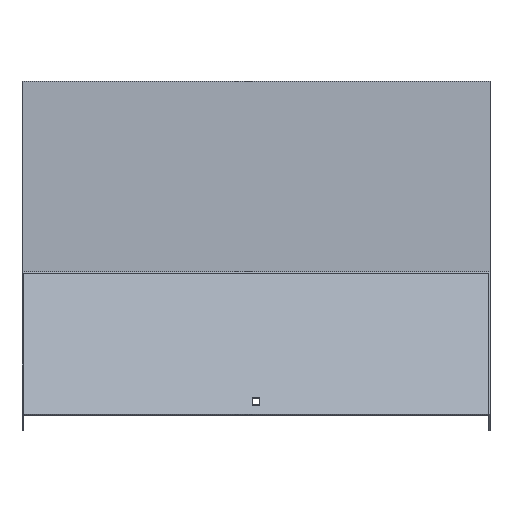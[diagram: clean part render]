
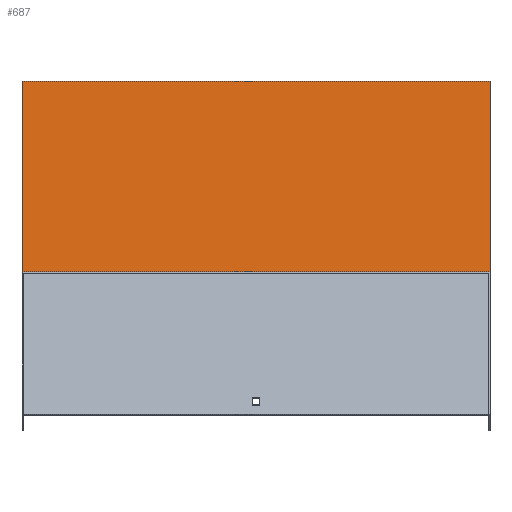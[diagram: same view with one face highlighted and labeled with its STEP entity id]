
A CAD part, top view. The second image highlights one B-rep face of the part: STEP entity #687.
In plain terms, the highlighted planar face has unit normal (0, 0.924, 0.383).
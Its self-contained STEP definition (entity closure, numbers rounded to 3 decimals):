
#10 = EDGE_CURVE ( 'NONE', #714, #693, #781, .T. ) ;
#69 = CARTESIAN_POINT ( 'NONE',  ( 201.5, -144.537, 571.206 ) ) ;
#74 = VECTOR ( 'NONE', #181, 1000. ) ;
#96 = CARTESIAN_POINT ( 'NONE',  ( -201.5, -144.537, 571.206 ) ) ;
#103 = EDGE_CURVE ( 'NONE', #693, #698, #315, .T. ) ;
#105 = CARTESIAN_POINT ( 'NONE',  ( 201.5, 20., 173.978 ) ) ;
#142 = DIRECTION ( 'NONE',  ( 0., -0.924, -0.383 ) ) ;
#157 = VECTOR ( 'NONE', #516, 1000. ) ;
#181 = DIRECTION ( 'NONE',  ( -1., 0., 0. ) ) ;
#243 = LINE ( 'NONE', #384, #157 ) ;
#251 = CARTESIAN_POINT ( 'NONE',  ( 201.5, 20., 173.978 ) ) ;
#262 = AXIS2_PLACEMENT_3D ( 'NONE', #477, #142, #414 ) ;
#315 = LINE ( 'NONE', #443, #628 ) ;
#364 = DIRECTION ( 'NONE',  ( -1., 0., 0. ) ) ;
#375 = ORIENTED_EDGE ( 'NONE', *, *, #421, .F. ) ;
#384 = CARTESIAN_POINT ( 'NONE',  ( 201.5, 18.478, 177.654 ) ) ;
#407 = ORIENTED_EDGE ( 'NONE', *, *, #103, .T. ) ;
#414 = DIRECTION ( 'NONE',  ( 0., 0.383, -0.924 ) ) ;
#421 = EDGE_CURVE ( 'NONE', #714, #422, #243, .T. ) ;
#422 = VERTEX_POINT ( 'NONE', #69 ) ;
#433 = CARTESIAN_POINT ( 'NONE',  ( 201.5, -144.537, 571.206 ) ) ;
#443 = CARTESIAN_POINT ( 'NONE',  ( -201.5, 18.478, 177.654 ) ) ;
#477 = CARTESIAN_POINT ( 'NONE',  ( 201.5, 18.478, 177.654 ) ) ;
#494 = VECTOR ( 'NONE', #364, 1000. ) ;
#516 = DIRECTION ( 'NONE',  ( 0., -0.383, 0.924 ) ) ;
#536 = FACE_OUTER_BOUND ( 'NONE', #644, .T. ) ;
#559 = CARTESIAN_POINT ( 'NONE',  ( -201.5, 20., 173.978 ) ) ;
#628 = VECTOR ( 'NONE', #832, 1000. ) ;
#641 = ORIENTED_EDGE ( 'NONE', *, *, #10, .T. ) ;
#644 = EDGE_LOOP ( 'NONE', ( #407, #777, #375, #641 ) ) ;
#687 = ADVANCED_FACE ( 'NONE', ( #536 ), #800, .F. ) ;
#693 = VERTEX_POINT ( 'NONE', #559 ) ;
#698 = VERTEX_POINT ( 'NONE', #96 ) ;
#701 = EDGE_CURVE ( 'NONE', #422, #698, #757, .T. ) ;
#714 = VERTEX_POINT ( 'NONE', #251 ) ;
#757 = LINE ( 'NONE', #433, #494 ) ;
#777 = ORIENTED_EDGE ( 'NONE', *, *, #701, .F. ) ;
#781 = LINE ( 'NONE', #105, #74 ) ;
#800 = PLANE ( 'NONE',  #262 ) ;
#832 = DIRECTION ( 'NONE',  ( 0., -0.383, 0.924 ) ) ;
